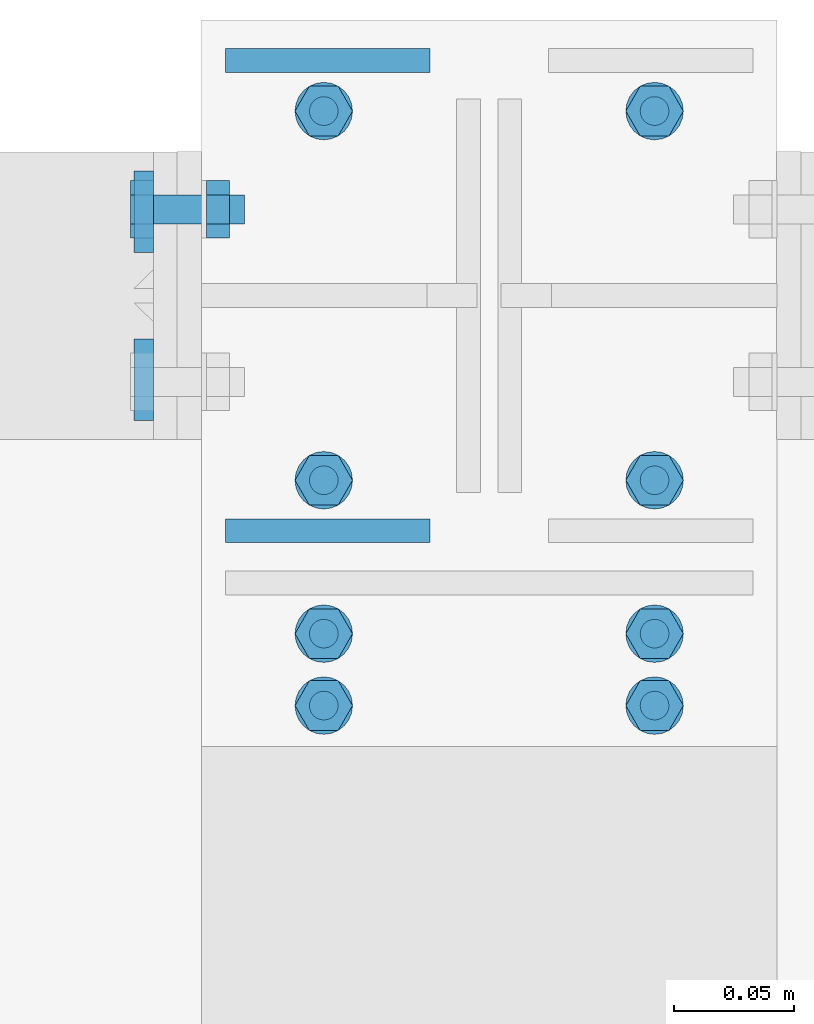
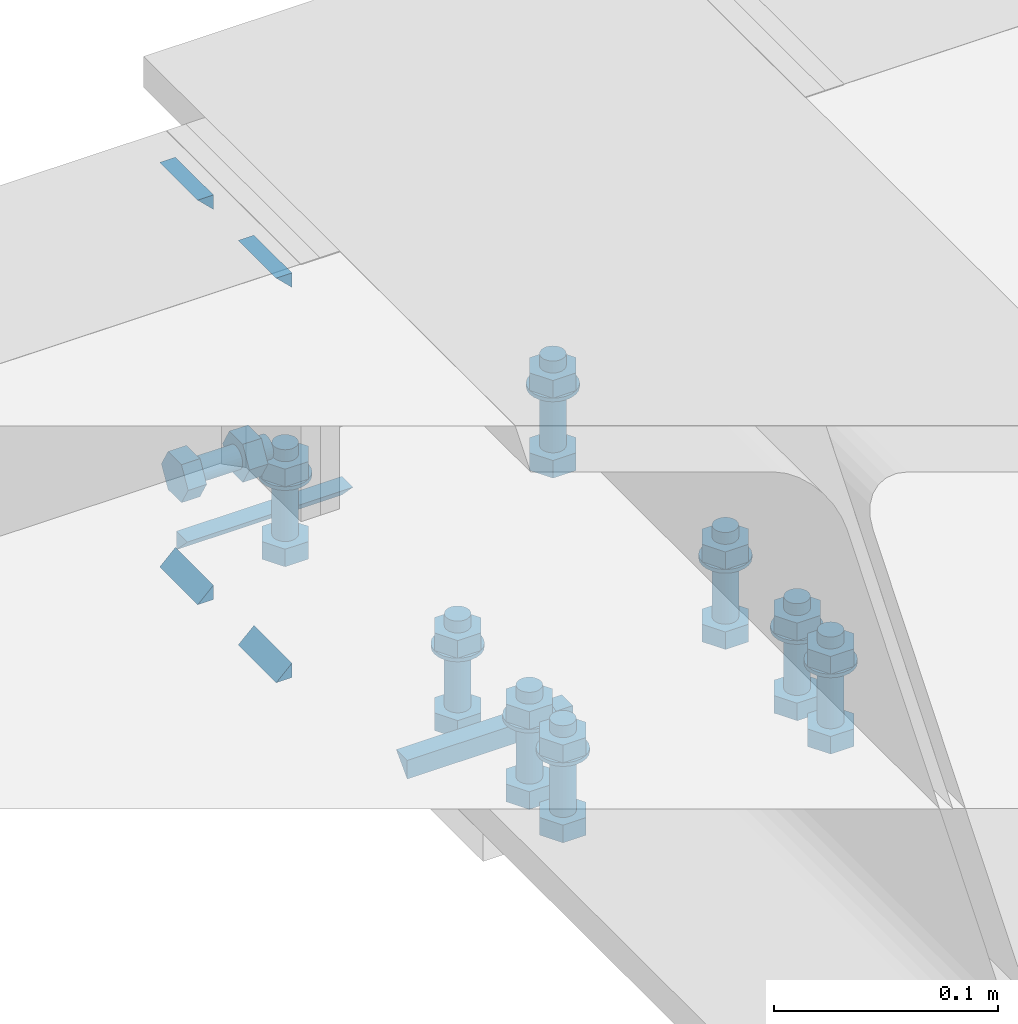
# One storey, part 48 of 66: 35 mechanical fasteners, 10 fasteners.
"""IFC4 building model written with IfcOpenShell, lengths in metres."""

from ifc_helpers import new_model, si_unit, frame, origin_with_axes, place, context, project, spatial, polyline, outline, extrude, type_object, element, save


model = new_model("IFC4")

# Units and contexts
model_context = context("Model", 3, precision=1e-05, world=origin_with_axes())
ifc_project = project(units=[si_unit("LENGTHUNIT", "METRE"), si_unit("AREAUNIT", "SQUARE_METRE"), si_unit("VOLUMEUNIT", "CUBIC_METRE"), si_unit("MASSUNIT", "GRAM", prefix="KILO"), si_unit("TIMEUNIT", "SECOND"), si_unit("PLANEANGLEUNIT", "RADIAN"), si_unit("SOLIDANGLEUNIT", "STERADIAN"), si_unit("THERMODYNAMICTEMPERATUREUNIT", "DEGREE_CELSIUS")], contexts=[model_context])

# Site, building, storey
placement_1 = place(None, origin_with_axes())
site = spatial("IfcSite", under=ifc_project, at=placement_1, Name="Italia", CompositionType="ELEMENT")
building = spatial("IfcBuilding", under=site, at=placement_1, Name="Uffici", CompositionType="ELEMENT")
storey_placement = place(None, frame((0.0, 0.0, 3.299999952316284), z_axis=(0.0, 0.0, 1.0), x_axis=(1.0, 0.0, 0.0)))
storey = spatial("IfcBuildingStorey", under=building, at=storey_placement, Name="Storey 1", CompositionType="ELEMENT", Elevation=3.299999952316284)

# Fasteners
fastener_type_1 = type_object("IfcFastenerType", Name="Collegamenti 0111_0011 0112_0012 0113_0013 0114_0014 0115_0015", PredefinedType="WELD")
placement_2 = place(placement_1, origin_with_axes())
fastener_1_placement = place(placement_2, origin_with_axes())
element("IfcFastener", 1, at=fastener_1_placement, inside=storey, type_object=fastener_type_1, Name="Collegamenti 0111_0011 0112_0012 0113_0013 0114_0014 0115_0015", context=model_context, shape_type="SweptSolid", body=[
    extrude(outline(polyline([(0.0, 0.0), (-0.00986814, -0.0101733), (-0.00986814, 0.0), (0.0, 0.0)])), frame((6.64495, 5.29682, 3.04505), z_axis=(1.0, 0.0, 0.0), x_axis=(0.0, 1.0, 0.0)), (0.0, 0.0, 1.0), 0.08535),
])
fastener_type_2 = type_object("IfcFastenerType", Name="Collegamenti 0111_0011 0112_0012 0113_0013 0114_0014 0115_0015", PredefinedType="WELD")
fastener_2_placement = place(placement_2, origin_with_axes())
element("IfcFastener", 2, at=fastener_2_placement, inside=storey, type_object=fastener_type_2, Name="Collegamenti 0111_0011 0112_0012 0113_0013 0114_0014 0115_0015", context=model_context, shape_type="SweptSolid", body=[
    extrude(outline(polyline([(0.0, 0.0), (-0.00986814, -0.0101733), (-0.00986814, 0.0), (0.0, 0.0)])), frame((6.7303, 5.48318, 3.04505), z_axis=(-1.0, 0.0, 0.0), x_axis=(0.0, -1.0, 0.0)), (0.0, 0.0, 1.0), 0.08535),
])

# Mechanical fasteners
mechanical_fastener_type_1 = type_object("IfcMechanicalFastenerType", Name="Collegamenti 0111_0011 0112_0012 0113_0013 0114_0014 0115_0015", PredefinedType="BOLT")
mechanical_fastener_1_placement = place(placement_2, origin_with_axes())
element("IfcMechanicalFastener", 3, at=mechanical_fastener_1_placement, inside=storey, type_object=mechanical_fastener_type_1, Name="Collegamenti 0111_0011 0112_0012 0113_0013 0114_0014 0115_0015", NominalDiameter=0.0119996, context=model_context, shape_type="SweptSolid", body=[
    extrude(outline(polyline([(0.0, 0.0), (0.0, 0.0119996), (0.0103922, 0.0179996), (0.0207849, 0.0119996), (0.0207849, 0.0), (0.0103922, -0.00600004), (0.0, 0.0)])), frame((6.818, 5.30261, 3.045), z_axis=(0.0, 0.0, -1.0), x_axis=(0.0, 1.0, 0.0)), (0.0, 0.0, 1.0), 0.00959992),
])
mechanical_fastener_type_2 = type_object("IfcMechanicalFastenerType", Name="Collegamenti 0111_0011 0112_0012 0113_0013 0114_0014 0115_0015", PredefinedType="BOLT")
mechanical_fastener_2_placement = place(placement_2, origin_with_axes())
element("IfcMechanicalFastener", 4, at=mechanical_fastener_2_placement, inside=storey, type_object=mechanical_fastener_type_2, Name="Collegamenti 0111_0011 0112_0012 0113_0013 0114_0014 0115_0015", NominalDiameter=0.012, context=model_context, shape_type="SweptSolid", body=[
    extrude(outline(polyline([(0.0, 0.0), (-0.000204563, -0.00155306), (-0.000803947, -0.00299978), (-0.00175762, -0.00424242), (-0.00300026, -0.00519609), (-0.00444698, -0.00579548), (-0.00600004, -0.00600004), (-0.0075531, -0.00579548), (-0.00899982, -0.00519609), (-0.0102425, -0.00424242), (-0.0111961, -0.00299978), (-0.0117955, -0.00155306), (-0.0120001, 0.0), (-0.0117955, 0.00155306), (-0.0111961, 0.00299978), (-0.0102425, 0.00424242), (-0.00899982, 0.00519609), (-0.0075531, 0.00579548), (-0.00600004, 0.00600004), (-0.00444698, 0.00579548), (-0.00300026, 0.00519609), (-0.00175762, 0.00424242), (-0.000803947, 0.00299978), (-0.000204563, 0.00155306), (0.0, 0.0)])), frame((6.824, 5.319, 3.095), z_axis=(0.0, 0.0, -1.0), x_axis=(0.0, 1.0, 0.0)), (0.0, 0.0, 1.0), 0.0500002),
])
mechanical_fastener_type_3 = type_object("IfcMechanicalFastenerType", Name="Collegamenti 0111_0011 0112_0012 0113_0013 0114_0014 0115_0015", PredefinedType="BOLT")
mechanical_fastener_3_placement = place(placement_2, origin_with_axes())
element("IfcMechanicalFastener", 5, at=mechanical_fastener_3_placement, inside=storey, type_object=mechanical_fastener_type_3, Name="Collegamenti 0111_0011 0112_0012 0113_0013 0114_0014 0115_0015", NominalDiameter=0.0119996, context=model_context, shape_type="SweptSolid", body=[
    extrude(outline(polyline([(0.0, 0.0), (0.0, 0.0119996), (0.0103922, 0.0179996), (0.0207849, 0.0119996), (0.0207849, 0.0), (0.0103922, -0.00600004), (0.0, 0.0)])), frame((6.818, 5.30261, 3.0886), z_axis=(0.0, 0.0, -1.0), x_axis=(0.0, 1.0, 0.0)), (0.0, 0.0, 1.0), 0.00959992),
])
mechanical_fastener_type_4 = type_object("IfcMechanicalFastenerType", Name="Collegamenti 0111_0011 0112_0012 0113_0013 0114_0014 0115_0015", PredefinedType="BOLT")
mechanical_fastener_4_placement = place(placement_2, origin_with_axes())
element("IfcMechanicalFastener", 6, at=mechanical_fastener_4_placement, inside=storey, type_object=mechanical_fastener_type_4, Name="Collegamenti 0111_0011 0112_0012 0113_0013 0114_0014 0115_0015", NominalDiameter=0.024, context=model_context, shape_type="SweptSolid", body=[
    extrude(outline(polyline([(0.0, 0.0), (-0.000409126, -0.00310564), (-0.00160789, -0.00600004), (-0.00351477, -0.00848532), (-0.00600004, -0.0103922), (-0.00889444, -0.011591), (-0.0120001, -0.0120001), (-0.0151057, -0.011591), (-0.0180001, -0.0103922), (-0.0204854, -0.00848532), (-0.0223923, -0.00600004), (-0.023591, -0.00310564), (-0.0240002, 0.0), (-0.023591, 0.00310564), (-0.0223923, 0.00600004), (-0.0204854, 0.00848532), (-0.0180001, 0.0103922), (-0.0151057, 0.011591), (-0.0120001, 0.0120001), (-0.00889444, 0.011591), (-0.00600004, 0.0103922), (-0.00351477, 0.00848532), (-0.00160789, 0.00600004), (-0.000409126, 0.00310564), (0.0, 0.0)])), frame((6.824, 5.325, 3.079), z_axis=(0.0, 0.0, -1.0), x_axis=(0.0, 1.0, 0.0)), (0.0, 0.0, 1.0), 0.00200009),
])
mechanical_fastener_type_5 = type_object("IfcMechanicalFastenerType", Name="Collegamenti 0111_0011 0112_0012 0113_0013 0114_0014 0115_0015", PredefinedType="BOLT")
mechanical_fastener_5_placement = place(placement_2, origin_with_axes())
element("IfcMechanicalFastener", 7, at=mechanical_fastener_5_placement, inside=storey, type_object=mechanical_fastener_type_5, Name="Collegamenti 0111_0011 0112_0012 0113_0013 0114_0014 0115_0015", NominalDiameter=0.0119996, context=model_context, shape_type="SweptSolid", body=[
    extrude(outline(polyline([(0.0, 0.0), (0.0, 0.0119996), (0.0103922, 0.0179996), (0.0207849, 0.0119996), (0.0207849, 0.0), (0.0103922, -0.00600004), (0.0, 0.0)])), frame((6.68, 5.30261, 3.045), z_axis=(0.0, 0.0, -1.0), x_axis=(0.0, 1.0, 0.0)), (0.0, 0.0, 1.0), 0.00959992),
])
mechanical_fastener_type_6 = type_object("IfcMechanicalFastenerType", Name="Collegamenti 0111_0011 0112_0012 0113_0013 0114_0014 0115_0015", PredefinedType="BOLT")
mechanical_fastener_6_placement = place(placement_2, origin_with_axes())
element("IfcMechanicalFastener", 8, at=mechanical_fastener_6_placement, inside=storey, type_object=mechanical_fastener_type_6, Name="Collegamenti 0111_0011 0112_0012 0113_0013 0114_0014 0115_0015", NominalDiameter=0.012, context=model_context, shape_type="SweptSolid", body=[
    extrude(outline(polyline([(0.0, 0.0), (-0.000204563, -0.00155306), (-0.000803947, -0.00299978), (-0.00175762, -0.00424242), (-0.00300026, -0.00519609), (-0.00444698, -0.00579548), (-0.00600004, -0.00600004), (-0.0075531, -0.00579548), (-0.00899982, -0.00519609), (-0.0102425, -0.00424242), (-0.0111961, -0.00299978), (-0.0117955, -0.00155306), (-0.0120001, 0.0), (-0.0117955, 0.00155306), (-0.0111961, 0.00299978), (-0.0102425, 0.00424242), (-0.00899982, 0.00519609), (-0.0075531, 0.00579548), (-0.00600004, 0.00600004), (-0.00444698, 0.00579548), (-0.00300026, 0.00519609), (-0.00175762, 0.00424242), (-0.000803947, 0.00299978), (-0.000204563, 0.00155306), (0.0, 0.0)])), frame((6.686, 5.319, 3.095), z_axis=(0.0, 0.0, -1.0), x_axis=(0.0, 1.0, 0.0)), (0.0, 0.0, 1.0), 0.0500002),
])
mechanical_fastener_type_7 = type_object("IfcMechanicalFastenerType", Name="Collegamenti 0111_0011 0112_0012 0113_0013 0114_0014 0115_0015", PredefinedType="BOLT")
mechanical_fastener_7_placement = place(placement_2, origin_with_axes())
element("IfcMechanicalFastener", 9, at=mechanical_fastener_7_placement, inside=storey, type_object=mechanical_fastener_type_7, Name="Collegamenti 0111_0011 0112_0012 0113_0013 0114_0014 0115_0015", NominalDiameter=0.0119996, context=model_context, shape_type="SweptSolid", body=[
    extrude(outline(polyline([(0.0, 0.0), (0.0, 0.0119996), (0.0103922, 0.0179996), (0.0207849, 0.0119996), (0.0207849, 0.0), (0.0103922, -0.00600004), (0.0, 0.0)])), frame((6.68, 5.30261, 3.0886), z_axis=(0.0, 0.0, -1.0), x_axis=(0.0, 1.0, 0.0)), (0.0, 0.0, 1.0), 0.00959992),
])
mechanical_fastener_type_8 = type_object("IfcMechanicalFastenerType", Name="Collegamenti 0111_0011 0112_0012 0113_0013 0114_0014 0115_0015", PredefinedType="BOLT")
mechanical_fastener_8_placement = place(placement_2, origin_with_axes())
element("IfcMechanicalFastener", 10, at=mechanical_fastener_8_placement, inside=storey, type_object=mechanical_fastener_type_8, Name="Collegamenti 0111_0011 0112_0012 0113_0013 0114_0014 0115_0015", NominalDiameter=0.024, context=model_context, shape_type="SweptSolid", body=[
    extrude(outline(polyline([(0.0, 0.0), (-0.000409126, -0.00310564), (-0.00160789, -0.00600004), (-0.00351477, -0.00848532), (-0.00600004, -0.0103922), (-0.00889444, -0.011591), (-0.0120001, -0.0120001), (-0.0151057, -0.011591), (-0.0180001, -0.0103922), (-0.0204854, -0.00848532), (-0.0223923, -0.00600004), (-0.023591, -0.00310564), (-0.0240002, 0.0), (-0.023591, 0.00310564), (-0.0223923, 0.00600004), (-0.0204854, 0.00848532), (-0.0180001, 0.0103922), (-0.0151057, 0.011591), (-0.0120001, 0.0120001), (-0.00889444, 0.011591), (-0.00600004, 0.0103922), (-0.00351477, 0.00848532), (-0.00160789, 0.00600004), (-0.000409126, 0.00310564), (0.0, 0.0)])), frame((6.686, 5.325, 3.079), z_axis=(0.0, 0.0, -1.0), x_axis=(0.0, 1.0, 0.0)), (0.0, 0.0, 1.0), 0.00200009),
])
mechanical_fastener_type_9 = type_object("IfcMechanicalFastenerType", Name="Collegamenti 0111_0011 0112_0012 0113_0013 0114_0014 0115_0015", PredefinedType="BOLT")
mechanical_fastener_9_placement = place(placement_2, origin_with_axes())
element("IfcMechanicalFastener", 11, at=mechanical_fastener_9_placement, inside=storey, type_object=mechanical_fastener_type_9, Name="Collegamenti 0111_0011 0112_0012 0113_0013 0114_0014 0115_0015", NominalDiameter=0.0119996, context=model_context, shape_type="SweptSolid", body=[
    extrude(outline(polyline([(0.0, 0.0), (0.0, 0.0119996), (0.0103927, 0.0179996), (0.0207849, 0.0119996), (0.0207849, 0.0), (0.0103927, -0.00600004), (0.0, 0.0)])), frame((6.818, 5.45661, 3.045), z_axis=(0.0, 0.0, -1.0), x_axis=(0.0, 1.0, 0.0)), (0.0, 0.0, 1.0), 0.00959992),
])
mechanical_fastener_type_10 = type_object("IfcMechanicalFastenerType", Name="Collegamenti 0111_0011 0112_0012 0113_0013 0114_0014 0115_0015", PredefinedType="BOLT")
mechanical_fastener_10_placement = place(placement_2, origin_with_axes())
element("IfcMechanicalFastener", 12, at=mechanical_fastener_10_placement, inside=storey, type_object=mechanical_fastener_type_10, Name="Collegamenti 0111_0011 0112_0012 0113_0013 0114_0014 0115_0015", NominalDiameter=0.012, context=model_context, shape_type="SweptSolid", body=[
    extrude(outline(polyline([(0.0, 0.0), (-0.000204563, -0.00155306), (-0.000803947, -0.00299978), (-0.00175762, -0.00424242), (-0.00300026, -0.00519609), (-0.00444698, -0.00579548), (-0.00600004, -0.00600004), (-0.0075531, -0.00579548), (-0.00899982, -0.00519609), (-0.0102425, -0.00424242), (-0.0111961, -0.00299978), (-0.0117955, -0.00155306), (-0.0120001, 0.0), (-0.0117955, 0.00155306), (-0.0111961, 0.00299978), (-0.0102425, 0.00424242), (-0.00899982, 0.00519609), (-0.0075531, 0.00579548), (-0.00600004, 0.00600004), (-0.00444698, 0.00579548), (-0.00300026, 0.00519609), (-0.00175762, 0.00424242), (-0.000803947, 0.00299978), (-0.000204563, 0.00155306), (0.0, 0.0)])), frame((6.824, 5.473, 3.095), z_axis=(0.0, 0.0, -1.0), x_axis=(0.0, 1.0, 0.0)), (0.0, 0.0, 1.0), 0.0500002),
])
mechanical_fastener_type_11 = type_object("IfcMechanicalFastenerType", Name="Collegamenti 0111_0011 0112_0012 0113_0013 0114_0014 0115_0015", PredefinedType="BOLT")
mechanical_fastener_11_placement = place(placement_2, origin_with_axes())
element("IfcMechanicalFastener", 13, at=mechanical_fastener_11_placement, inside=storey, type_object=mechanical_fastener_type_11, Name="Collegamenti 0111_0011 0112_0012 0113_0013 0114_0014 0115_0015", NominalDiameter=0.0119996, context=model_context, shape_type="SweptSolid", body=[
    extrude(outline(polyline([(0.0, 0.0), (0.0, 0.0119996), (0.0103927, 0.0179996), (0.0207849, 0.0119996), (0.0207849, 0.0), (0.0103927, -0.00600004), (0.0, 0.0)])), frame((6.818, 5.45661, 3.0886), z_axis=(0.0, 0.0, -1.0), x_axis=(0.0, 1.0, 0.0)), (0.0, 0.0, 1.0), 0.00959992),
])
mechanical_fastener_type_12 = type_object("IfcMechanicalFastenerType", Name="Collegamenti 0111_0011 0112_0012 0113_0013 0114_0014 0115_0015", PredefinedType="BOLT")
mechanical_fastener_12_placement = place(placement_2, origin_with_axes())
element("IfcMechanicalFastener", 14, at=mechanical_fastener_12_placement, inside=storey, type_object=mechanical_fastener_type_12, Name="Collegamenti 0111_0011 0112_0012 0113_0013 0114_0014 0115_0015", NominalDiameter=0.024, context=model_context, shape_type="SweptSolid", body=[
    extrude(outline(polyline([(0.0, 0.0), (-0.000409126, -0.00310564), (-0.00160789, -0.00600004), (-0.00351477, -0.00848532), (-0.00600004, -0.0103922), (-0.00889444, -0.011591), (-0.0120001, -0.0120001), (-0.0151057, -0.011591), (-0.0180001, -0.0103922), (-0.0204854, -0.00848532), (-0.0223923, -0.00600004), (-0.023591, -0.00310564), (-0.0240002, 0.0), (-0.023591, 0.00310564), (-0.0223923, 0.00600004), (-0.0204854, 0.00848532), (-0.0180001, 0.0103922), (-0.0151057, 0.011591), (-0.0120001, 0.0120001), (-0.00889444, 0.011591), (-0.00600004, 0.0103922), (-0.00351477, 0.00848532), (-0.00160789, 0.00600004), (-0.000409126, 0.00310564), (0.0, 0.0)])), frame((6.824, 5.479, 3.079), z_axis=(0.0, 0.0, -1.0), x_axis=(0.0, 1.0, 0.0)), (0.0, 0.0, 1.0), 0.00200009),
])
mechanical_fastener_type_13 = type_object("IfcMechanicalFastenerType", Name="Collegamenti 0111_0011 0112_0012 0113_0013 0114_0014 0115_0015", PredefinedType="BOLT")
mechanical_fastener_13_placement = place(placement_2, origin_with_axes())
element("IfcMechanicalFastener", 15, at=mechanical_fastener_13_placement, inside=storey, type_object=mechanical_fastener_type_13, Name="Collegamenti 0111_0011 0112_0012 0113_0013 0114_0014 0115_0015", NominalDiameter=0.0119996, context=model_context, shape_type="SweptSolid", body=[
    extrude(outline(polyline([(0.0, 0.0), (0.0, 0.0119996), (0.0103927, 0.0179996), (0.0207849, 0.0119996), (0.0207849, 0.0), (0.0103927, -0.00600004), (0.0, 0.0)])), frame((6.68, 5.45661, 3.045), z_axis=(0.0, 0.0, -1.0), x_axis=(0.0, 1.0, 0.0)), (0.0, 0.0, 1.0), 0.00959992),
])
mechanical_fastener_type_14 = type_object("IfcMechanicalFastenerType", Name="Collegamenti 0111_0011 0112_0012 0113_0013 0114_0014 0115_0015", PredefinedType="BOLT")
mechanical_fastener_14_placement = place(placement_2, origin_with_axes())
element("IfcMechanicalFastener", 16, at=mechanical_fastener_14_placement, inside=storey, type_object=mechanical_fastener_type_14, Name="Collegamenti 0111_0011 0112_0012 0113_0013 0114_0014 0115_0015", NominalDiameter=0.012, context=model_context, shape_type="SweptSolid", body=[
    extrude(outline(polyline([(0.0, 0.0), (-0.000204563, -0.00155306), (-0.000803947, -0.00299978), (-0.00175762, -0.00424242), (-0.00300026, -0.00519609), (-0.00444698, -0.00579548), (-0.00600004, -0.00600004), (-0.0075531, -0.00579548), (-0.00899982, -0.00519609), (-0.0102425, -0.00424242), (-0.0111961, -0.00299978), (-0.0117955, -0.00155306), (-0.0120001, 0.0), (-0.0117955, 0.00155306), (-0.0111961, 0.00299978), (-0.0102425, 0.00424242), (-0.00899982, 0.00519609), (-0.0075531, 0.00579548), (-0.00600004, 0.00600004), (-0.00444698, 0.00579548), (-0.00300026, 0.00519609), (-0.00175762, 0.00424242), (-0.000803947, 0.00299978), (-0.000204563, 0.00155306), (0.0, 0.0)])), frame((6.686, 5.473, 3.095), z_axis=(0.0, 0.0, -1.0), x_axis=(0.0, 1.0, 0.0)), (0.0, 0.0, 1.0), 0.0500002),
])
mechanical_fastener_type_15 = type_object("IfcMechanicalFastenerType", Name="Collegamenti 0111_0011 0112_0012 0113_0013 0114_0014 0115_0015", PredefinedType="BOLT")
mechanical_fastener_15_placement = place(placement_2, origin_with_axes())
element("IfcMechanicalFastener", 17, at=mechanical_fastener_15_placement, inside=storey, type_object=mechanical_fastener_type_15, Name="Collegamenti 0111_0011 0112_0012 0113_0013 0114_0014 0115_0015", NominalDiameter=0.0119996, context=model_context, shape_type="SweptSolid", body=[
    extrude(outline(polyline([(0.0, 0.0), (0.0, 0.0119996), (0.0103927, 0.0179996), (0.0207849, 0.0119996), (0.0207849, 0.0), (0.0103927, -0.00600004), (0.0, 0.0)])), frame((6.68, 5.45661, 3.0886), z_axis=(0.0, 0.0, -1.0), x_axis=(0.0, 1.0, 0.0)), (0.0, 0.0, 1.0), 0.00959992),
])
mechanical_fastener_type_16 = type_object("IfcMechanicalFastenerType", Name="Collegamenti 0111_0011 0112_0012 0113_0013 0114_0014 0115_0015", PredefinedType="BOLT")
mechanical_fastener_16_placement = place(placement_2, origin_with_axes())
element("IfcMechanicalFastener", 18, at=mechanical_fastener_16_placement, inside=storey, type_object=mechanical_fastener_type_16, Name="Collegamenti 0111_0011 0112_0012 0113_0013 0114_0014 0115_0015", NominalDiameter=0.024, context=model_context, shape_type="SweptSolid", body=[
    extrude(outline(polyline([(0.0, 0.0), (-0.000409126, -0.00310564), (-0.00160789, -0.00600004), (-0.00351477, -0.00848532), (-0.00600004, -0.0103922), (-0.00889444, -0.011591), (-0.0120001, -0.0120001), (-0.0151057, -0.011591), (-0.0180001, -0.0103922), (-0.0204854, -0.00848532), (-0.0223923, -0.00600004), (-0.023591, -0.00310564), (-0.0240002, 0.0), (-0.023591, 0.00310564), (-0.0223923, 0.00600004), (-0.0204854, 0.00848532), (-0.0180001, 0.0103922), (-0.0151057, 0.011591), (-0.0120001, 0.0120001), (-0.00889444, 0.011591), (-0.00600004, 0.0103922), (-0.00351477, 0.00848532), (-0.00160789, 0.00600004), (-0.000409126, 0.00310564), (0.0, 0.0)])), frame((6.686, 5.479, 3.079), z_axis=(0.0, 0.0, -1.0), x_axis=(0.0, 1.0, 0.0)), (0.0, 0.0, 1.0), 0.00200009),
])
mechanical_fastener_type_17 = type_object("IfcMechanicalFastenerType", Name="Collegamenti 0111_0011 0112_0012 0113_0013 0114_0014 0115_0015", PredefinedType="BOLT")
mechanical_fastener_17_placement = place(placement_2, origin_with_axes())
element("IfcMechanicalFastener", 19, at=mechanical_fastener_17_placement, inside=storey, type_object=mechanical_fastener_type_17, Name="Collegamenti 0111_0011 0112_0012 0113_0013 0114_0014 0115_0015", NominalDiameter=0.0119996, context=model_context, shape_type="SweptSolid", body=[
    extrude(outline(polyline([(0.0, 0.0), (0.0, 0.0119996), (0.0103922, 0.0179996), (0.0207844, 0.0119996), (0.0207844, 0.0), (0.0103922, -0.00600004), (0.0, 0.0)])), frame((6.818, 5.20861, 3.045), z_axis=(0.0, 0.0, -1.0), x_axis=(0.0, 1.0, 0.0)), (0.0, 0.0, 1.0), 0.00959992),
])
mechanical_fastener_type_18 = type_object("IfcMechanicalFastenerType", Name="Collegamenti 0111_0011 0112_0012 0113_0013 0114_0014 0115_0015", PredefinedType="BOLT")
mechanical_fastener_18_placement = place(placement_2, origin_with_axes())
element("IfcMechanicalFastener", 20, at=mechanical_fastener_18_placement, inside=storey, type_object=mechanical_fastener_type_18, Name="Collegamenti 0111_0011 0112_0012 0113_0013 0114_0014 0115_0015", NominalDiameter=0.012, context=model_context, shape_type="SweptSolid", body=[
    extrude(outline(polyline([(0.0, 0.0), (-0.000204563, -0.00155306), (-0.000803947, -0.00299978), (-0.00175762, -0.00424242), (-0.00300026, -0.00519609), (-0.00444698, -0.00579548), (-0.00600004, -0.00600004), (-0.0075531, -0.00579548), (-0.00899982, -0.00519609), (-0.0102425, -0.00424242), (-0.0111961, -0.00299978), (-0.0117955, -0.00155306), (-0.0120001, 0.0), (-0.0117955, 0.00155306), (-0.0111961, 0.00299978), (-0.0102425, 0.00424242), (-0.00899982, 0.00519609), (-0.0075531, 0.00579548), (-0.00600004, 0.00600004), (-0.00444698, 0.00579548), (-0.00300026, 0.00519609), (-0.00175762, 0.00424242), (-0.000803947, 0.00299978), (-0.000204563, 0.00155306), (0.0, 0.0)])), frame((6.824, 5.225, 3.095), z_axis=(0.0, 0.0, -1.0), x_axis=(0.0, 1.0, 0.0)), (0.0, 0.0, 1.0), 0.0500002),
])
mechanical_fastener_type_19 = type_object("IfcMechanicalFastenerType", Name="Collegamenti 0111_0011 0112_0012 0113_0013 0114_0014 0115_0015", PredefinedType="BOLT")
mechanical_fastener_19_placement = place(placement_2, origin_with_axes())
element("IfcMechanicalFastener", 21, at=mechanical_fastener_19_placement, inside=storey, type_object=mechanical_fastener_type_19, Name="Collegamenti 0111_0011 0112_0012 0113_0013 0114_0014 0115_0015", NominalDiameter=0.0119996, context=model_context, shape_type="SweptSolid", body=[
    extrude(outline(polyline([(0.0, 0.0), (0.0, 0.0119996), (0.0103922, 0.0179996), (0.0207844, 0.0119996), (0.0207844, 0.0), (0.0103922, -0.00600004), (0.0, 0.0)])), frame((6.818, 5.20861, 3.0886), z_axis=(0.0, 0.0, -1.0), x_axis=(0.0, 1.0, 0.0)), (0.0, 0.0, 1.0), 0.00959992),
])
mechanical_fastener_type_20 = type_object("IfcMechanicalFastenerType", Name="Collegamenti 0111_0011 0112_0012 0113_0013 0114_0014 0115_0015", PredefinedType="BOLT")
mechanical_fastener_20_placement = place(placement_2, origin_with_axes())
element("IfcMechanicalFastener", 22, at=mechanical_fastener_20_placement, inside=storey, type_object=mechanical_fastener_type_20, Name="Collegamenti 0111_0011 0112_0012 0113_0013 0114_0014 0115_0015", NominalDiameter=0.024, context=model_context, shape_type="SweptSolid", body=[
    extrude(outline(polyline([(0.0, 0.0), (-0.000409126, -0.00310564), (-0.00160789, -0.00600004), (-0.00351477, -0.00848532), (-0.00600004, -0.0103922), (-0.00889444, -0.011591), (-0.0120001, -0.0120001), (-0.0151057, -0.011591), (-0.0180001, -0.0103922), (-0.0204854, -0.00848532), (-0.0223923, -0.00600004), (-0.023591, -0.00310564), (-0.0240002, 0.0), (-0.023591, 0.00310564), (-0.0223923, 0.00600004), (-0.0204854, 0.00848532), (-0.0180001, 0.0103922), (-0.0151057, 0.011591), (-0.0120001, 0.0120001), (-0.00889444, 0.011591), (-0.00600004, 0.0103922), (-0.00351477, 0.00848532), (-0.00160789, 0.00600004), (-0.000409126, 0.00310564), (0.0, 0.0)])), frame((6.824, 5.231, 3.079), z_axis=(0.0, 0.0, -1.0), x_axis=(0.0, 1.0, 0.0)), (0.0, 0.0, 1.0), 0.00200009),
])
mechanical_fastener_type_21 = type_object("IfcMechanicalFastenerType", Name="Collegamenti 0111_0011 0112_0012 0113_0013 0114_0014 0115_0015", PredefinedType="BOLT")
mechanical_fastener_21_placement = place(placement_2, origin_with_axes())
element("IfcMechanicalFastener", 23, at=mechanical_fastener_21_placement, inside=storey, type_object=mechanical_fastener_type_21, Name="Collegamenti 0111_0011 0112_0012 0113_0013 0114_0014 0115_0015", NominalDiameter=0.0119996, context=model_context, shape_type="SweptSolid", body=[
    extrude(outline(polyline([(0.0, 0.0), (0.0, 0.0119996), (0.0103922, 0.0179996), (0.0207844, 0.0119996), (0.0207844, 0.0), (0.0103922, -0.00600004), (0.0, 0.0)])), frame((6.68, 5.20861, 3.045), z_axis=(0.0, 0.0, -1.0), x_axis=(0.0, 1.0, 0.0)), (0.0, 0.0, 1.0), 0.00959992),
])
mechanical_fastener_type_22 = type_object("IfcMechanicalFastenerType", Name="Collegamenti 0111_0011 0112_0012 0113_0013 0114_0014 0115_0015", PredefinedType="BOLT")
mechanical_fastener_22_placement = place(placement_2, origin_with_axes())
element("IfcMechanicalFastener", 24, at=mechanical_fastener_22_placement, inside=storey, type_object=mechanical_fastener_type_22, Name="Collegamenti 0111_0011 0112_0012 0113_0013 0114_0014 0115_0015", NominalDiameter=0.012, context=model_context, shape_type="SweptSolid", body=[
    extrude(outline(polyline([(0.0, 0.0), (-0.000204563, -0.00155306), (-0.000803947, -0.00299978), (-0.00175762, -0.00424242), (-0.00300026, -0.00519609), (-0.00444698, -0.00579548), (-0.00600004, -0.00600004), (-0.0075531, -0.00579548), (-0.00899982, -0.00519609), (-0.0102425, -0.00424242), (-0.0111961, -0.00299978), (-0.0117955, -0.00155306), (-0.0120001, 0.0), (-0.0117955, 0.00155306), (-0.0111961, 0.00299978), (-0.0102425, 0.00424242), (-0.00899982, 0.00519609), (-0.0075531, 0.00579548), (-0.00600004, 0.00600004), (-0.00444698, 0.00579548), (-0.00300026, 0.00519609), (-0.00175762, 0.00424242), (-0.000803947, 0.00299978), (-0.000204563, 0.00155306), (0.0, 0.0)])), frame((6.686, 5.225, 3.095), z_axis=(0.0, 0.0, -1.0), x_axis=(0.0, 1.0, 0.0)), (0.0, 0.0, 1.0), 0.0500002),
])
mechanical_fastener_type_23 = type_object("IfcMechanicalFastenerType", Name="Collegamenti 0111_0011 0112_0012 0113_0013 0114_0014 0115_0015", PredefinedType="BOLT")
mechanical_fastener_23_placement = place(placement_2, origin_with_axes())
element("IfcMechanicalFastener", 25, at=mechanical_fastener_23_placement, inside=storey, type_object=mechanical_fastener_type_23, Name="Collegamenti 0111_0011 0112_0012 0113_0013 0114_0014 0115_0015", NominalDiameter=0.0119996, context=model_context, shape_type="SweptSolid", body=[
    extrude(outline(polyline([(0.0, 0.0), (0.0, 0.0119996), (0.0103922, 0.0179996), (0.0207844, 0.0119996), (0.0207844, 0.0), (0.0103922, -0.00600004), (0.0, 0.0)])), frame((6.68, 5.20861, 3.0886), z_axis=(0.0, 0.0, -1.0), x_axis=(0.0, 1.0, 0.0)), (0.0, 0.0, 1.0), 0.00959992),
])
mechanical_fastener_type_24 = type_object("IfcMechanicalFastenerType", Name="Collegamenti 0111_0011 0112_0012 0113_0013 0114_0014 0115_0015", PredefinedType="BOLT")
mechanical_fastener_24_placement = place(placement_2, origin_with_axes())
element("IfcMechanicalFastener", 26, at=mechanical_fastener_24_placement, inside=storey, type_object=mechanical_fastener_type_24, Name="Collegamenti 0111_0011 0112_0012 0113_0013 0114_0014 0115_0015", NominalDiameter=0.024, context=model_context, shape_type="SweptSolid", body=[
    extrude(outline(polyline([(0.0, 0.0), (-0.000409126, -0.00310564), (-0.00160789, -0.00600004), (-0.00351477, -0.00848532), (-0.00600004, -0.0103922), (-0.00889444, -0.011591), (-0.0120001, -0.0120001), (-0.0151057, -0.011591), (-0.0180001, -0.0103922), (-0.0204854, -0.00848532), (-0.0223923, -0.00600004), (-0.023591, -0.00310564), (-0.0240002, 0.0), (-0.023591, 0.00310564), (-0.0223923, 0.00600004), (-0.0204854, 0.00848532), (-0.0180001, 0.0103922), (-0.0151057, 0.011591), (-0.0120001, 0.0120001), (-0.00889444, 0.011591), (-0.00600004, 0.0103922), (-0.00351477, 0.00848532), (-0.00160789, 0.00600004), (-0.000409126, 0.00310564), (0.0, 0.0)])), frame((6.686, 5.231, 3.079), z_axis=(0.0, 0.0, -1.0), x_axis=(0.0, 1.0, 0.0)), (0.0, 0.0, 1.0), 0.00200009),
])
mechanical_fastener_type_25 = type_object("IfcMechanicalFastenerType", Name="Collegamenti 0111_0011 0112_0012 0113_0013 0114_0014 0115_0015", PredefinedType="BOLT")
mechanical_fastener_25_placement = place(placement_2, origin_with_axes())
element("IfcMechanicalFastener", 27, at=mechanical_fastener_25_placement, inside=storey, type_object=mechanical_fastener_type_25, Name="Collegamenti 0111_0011 0112_0012 0113_0013 0114_0014 0115_0015", NominalDiameter=0.0119996, context=model_context, shape_type="SweptSolid", body=[
    extrude(outline(polyline([(0.0, 0.0), (0.0, 0.0119996), (0.0103927, 0.0179996), (0.0207849, 0.0119996), (0.0207849, 0.0), (0.0103927, -0.00600004), (0.0, 0.0)])), frame((6.818, 5.23861, 3.045), z_axis=(0.0, 0.0, -1.0), x_axis=(0.0, 1.0, 0.0)), (0.0, 0.0, 1.0), 0.00959992),
])
mechanical_fastener_type_26 = type_object("IfcMechanicalFastenerType", Name="Collegamenti 0111_0011 0112_0012 0113_0013 0114_0014 0115_0015", PredefinedType="BOLT")
mechanical_fastener_26_placement = place(placement_2, origin_with_axes())
element("IfcMechanicalFastener", 28, at=mechanical_fastener_26_placement, inside=storey, type_object=mechanical_fastener_type_26, Name="Collegamenti 0111_0011 0112_0012 0113_0013 0114_0014 0115_0015", NominalDiameter=0.012, context=model_context, shape_type="SweptSolid", body=[
    extrude(outline(polyline([(0.0, 0.0), (-0.000204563, -0.00155306), (-0.000803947, -0.00299978), (-0.00175762, -0.00424242), (-0.00300026, -0.00519609), (-0.00444698, -0.00579548), (-0.00600004, -0.00600004), (-0.0075531, -0.00579548), (-0.00899982, -0.00519609), (-0.0102425, -0.00424242), (-0.0111961, -0.00299978), (-0.0117955, -0.00155306), (-0.0120001, 0.0), (-0.0117955, 0.00155306), (-0.0111961, 0.00299978), (-0.0102425, 0.00424242), (-0.00899982, 0.00519609), (-0.0075531, 0.00579548), (-0.00600004, 0.00600004), (-0.00444698, 0.00579548), (-0.00300026, 0.00519609), (-0.00175762, 0.00424242), (-0.000803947, 0.00299978), (-0.000204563, 0.00155306), (0.0, 0.0)])), frame((6.824, 5.255, 3.095), z_axis=(0.0, 0.0, -1.0), x_axis=(0.0, 1.0, 0.0)), (0.0, 0.0, 1.0), 0.0500002),
])
mechanical_fastener_type_27 = type_object("IfcMechanicalFastenerType", Name="Collegamenti 0111_0011 0112_0012 0113_0013 0114_0014 0115_0015", PredefinedType="BOLT")
mechanical_fastener_27_placement = place(placement_2, origin_with_axes())
element("IfcMechanicalFastener", 29, at=mechanical_fastener_27_placement, inside=storey, type_object=mechanical_fastener_type_27, Name="Collegamenti 0111_0011 0112_0012 0113_0013 0114_0014 0115_0015", NominalDiameter=0.0119996, context=model_context, shape_type="SweptSolid", body=[
    extrude(outline(polyline([(0.0, 0.0), (0.0, 0.0119996), (0.0103927, 0.0179996), (0.0207849, 0.0119996), (0.0207849, 0.0), (0.0103927, -0.00600004), (0.0, 0.0)])), frame((6.818, 5.23861, 3.0886), z_axis=(0.0, 0.0, -1.0), x_axis=(0.0, 1.0, 0.0)), (0.0, 0.0, 1.0), 0.00959992),
])
mechanical_fastener_type_28 = type_object("IfcMechanicalFastenerType", Name="Collegamenti 0111_0011 0112_0012 0113_0013 0114_0014 0115_0015", PredefinedType="BOLT")
mechanical_fastener_28_placement = place(placement_2, origin_with_axes())
element("IfcMechanicalFastener", 30, at=mechanical_fastener_28_placement, inside=storey, type_object=mechanical_fastener_type_28, Name="Collegamenti 0111_0011 0112_0012 0113_0013 0114_0014 0115_0015", NominalDiameter=0.024, context=model_context, shape_type="SweptSolid", body=[
    extrude(outline(polyline([(0.0, 0.0), (-0.000409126, -0.00310564), (-0.00160789, -0.00600004), (-0.00351477, -0.00848532), (-0.00600004, -0.0103922), (-0.00889444, -0.011591), (-0.0120001, -0.0120001), (-0.0151057, -0.011591), (-0.0180001, -0.0103922), (-0.0204854, -0.00848532), (-0.0223923, -0.00600004), (-0.023591, -0.00310564), (-0.0240002, 0.0), (-0.023591, 0.00310564), (-0.0223923, 0.00600004), (-0.0204854, 0.00848532), (-0.0180001, 0.0103922), (-0.0151057, 0.011591), (-0.0120001, 0.0120001), (-0.00889444, 0.011591), (-0.00600004, 0.0103922), (-0.00351477, 0.00848532), (-0.00160789, 0.00600004), (-0.000409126, 0.00310564), (0.0, 0.0)])), frame((6.824, 5.261, 3.079), z_axis=(0.0, 0.0, -1.0), x_axis=(0.0, 1.0, 0.0)), (0.0, 0.0, 1.0), 0.00200009),
])
mechanical_fastener_type_29 = type_object("IfcMechanicalFastenerType", Name="Collegamenti 0111_0011 0112_0012 0113_0013 0114_0014 0115_0015", PredefinedType="BOLT")
mechanical_fastener_29_placement = place(placement_2, origin_with_axes())
element("IfcMechanicalFastener", 31, at=mechanical_fastener_29_placement, inside=storey, type_object=mechanical_fastener_type_29, Name="Collegamenti 0111_0011 0112_0012 0113_0013 0114_0014 0115_0015", NominalDiameter=0.0119996, context=model_context, shape_type="SweptSolid", body=[
    extrude(outline(polyline([(0.0, 0.0), (0.0, 0.0119996), (0.0103927, 0.0179996), (0.0207849, 0.0119996), (0.0207849, 0.0), (0.0103927, -0.00600004), (0.0, 0.0)])), frame((6.68, 5.23861, 3.045), z_axis=(0.0, 0.0, -1.0), x_axis=(0.0, 1.0, 0.0)), (0.0, 0.0, 1.0), 0.00959992),
])
mechanical_fastener_type_30 = type_object("IfcMechanicalFastenerType", Name="Collegamenti 0111_0011 0112_0012 0113_0013 0114_0014 0115_0015", PredefinedType="BOLT")
mechanical_fastener_30_placement = place(placement_2, origin_with_axes())
element("IfcMechanicalFastener", 32, at=mechanical_fastener_30_placement, inside=storey, type_object=mechanical_fastener_type_30, Name="Collegamenti 0111_0011 0112_0012 0113_0013 0114_0014 0115_0015", NominalDiameter=0.012, context=model_context, shape_type="SweptSolid", body=[
    extrude(outline(polyline([(0.0, 0.0), (-0.000204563, -0.00155306), (-0.000803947, -0.00299978), (-0.00175762, -0.00424242), (-0.00300026, -0.00519609), (-0.00444698, -0.00579548), (-0.00600004, -0.00600004), (-0.0075531, -0.00579548), (-0.00899982, -0.00519609), (-0.0102425, -0.00424242), (-0.0111961, -0.00299978), (-0.0117955, -0.00155306), (-0.0120001, 0.0), (-0.0117955, 0.00155306), (-0.0111961, 0.00299978), (-0.0102425, 0.00424242), (-0.00899982, 0.00519609), (-0.0075531, 0.00579548), (-0.00600004, 0.00600004), (-0.00444698, 0.00579548), (-0.00300026, 0.00519609), (-0.00175762, 0.00424242), (-0.000803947, 0.00299978), (-0.000204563, 0.00155306), (0.0, 0.0)])), frame((6.686, 5.255, 3.095), z_axis=(0.0, 0.0, -1.0), x_axis=(0.0, 1.0, 0.0)), (0.0, 0.0, 1.0), 0.0500002),
])
mechanical_fastener_type_31 = type_object("IfcMechanicalFastenerType", Name="Collegamenti 0111_0011 0112_0012 0113_0013 0114_0014 0115_0015", PredefinedType="BOLT")
mechanical_fastener_31_placement = place(placement_2, origin_with_axes())
element("IfcMechanicalFastener", 33, at=mechanical_fastener_31_placement, inside=storey, type_object=mechanical_fastener_type_31, Name="Collegamenti 0111_0011 0112_0012 0113_0013 0114_0014 0115_0015", NominalDiameter=0.0119996, context=model_context, shape_type="SweptSolid", body=[
    extrude(outline(polyline([(0.0, 0.0), (0.0, 0.0119996), (0.0103927, 0.0179996), (0.0207849, 0.0119996), (0.0207849, 0.0), (0.0103927, -0.00600004), (0.0, 0.0)])), frame((6.68, 5.23861, 3.0886), z_axis=(0.0, 0.0, -1.0), x_axis=(0.0, 1.0, 0.0)), (0.0, 0.0, 1.0), 0.00959992),
])
mechanical_fastener_type_32 = type_object("IfcMechanicalFastenerType", Name="Collegamenti 0111_0011 0112_0012 0113_0013 0114_0014 0115_0015", PredefinedType="BOLT")
mechanical_fastener_32_placement = place(placement_2, origin_with_axes())
element("IfcMechanicalFastener", 34, at=mechanical_fastener_32_placement, inside=storey, type_object=mechanical_fastener_type_32, Name="Collegamenti 0111_0011 0112_0012 0113_0013 0114_0014 0115_0015", NominalDiameter=0.024, context=model_context, shape_type="SweptSolid", body=[
    extrude(outline(polyline([(0.0, 0.0), (-0.000409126, -0.00310564), (-0.00160789, -0.00600004), (-0.00351477, -0.00848532), (-0.00600004, -0.0103922), (-0.00889444, -0.011591), (-0.0120001, -0.0120001), (-0.0151057, -0.011591), (-0.0180001, -0.0103922), (-0.0204854, -0.00848532), (-0.0223923, -0.00600004), (-0.023591, -0.00310564), (-0.0240002, 0.0), (-0.023591, 0.00310564), (-0.0223923, 0.00600004), (-0.0204854, 0.00848532), (-0.0180001, 0.0103922), (-0.0151057, 0.011591), (-0.0120001, 0.0120001), (-0.00889444, 0.011591), (-0.00600004, 0.0103922), (-0.00351477, 0.00848532), (-0.00160789, 0.00600004), (-0.000409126, 0.00310564), (0.0, 0.0)])), frame((6.686, 5.261, 3.079), z_axis=(0.0, 0.0, -1.0), x_axis=(0.0, 1.0, 0.0)), (0.0, 0.0, 1.0), 0.00200009),
])

# Fasteners
fastener_type_3 = type_object("IfcFastenerType", Name="Collegamento 0113_0112", PredefinedType="WELD")
fastener_3_placement = place(placement_2, origin_with_axes())
element("IfcFastener", 35, at=fastener_3_placement, inside=storey, type_object=fastener_type_3, Name="Collegamento 0113_0112", context=model_context, shape_type="SweptSolid", body=[
    extrude(outline(polyline([(0.0, 0.0), (-0.00817347, 0.00792813), (0.0, 0.00792813), (0.0, 0.0)])), frame((6.61505, 5.37195, 3.28232), z_axis=(0.0, -1.0, 0.0), x_axis=(1.0, 0.0, 0.0)), (0.0, 0.0, 1.0), 0.0340004),
])
fastener_type_4 = type_object("IfcFastenerType", Name="Collegamento 0113_0112", PredefinedType="WELD")
fastener_4_placement = place(placement_2, origin_with_axes())
element("IfcFastener", 36, at=fastener_4_placement, inside=storey, type_object=fastener_type_4, Name="Collegamento 0113_0112", context=model_context, shape_type="SweptSolid", body=[
    extrude(outline(polyline([(0.0, 0.0), (0.00817347, -0.00792813), (0.0, -0.00792813), (0.0, 0.0)])), frame((6.61505, 5.33795, 3.07768), z_axis=(0.0, 1.0, 0.0), x_axis=(-1.0, 0.0, 0.0)), (0.0, 0.0, 1.0), 0.0340004),
])
fastener_type_5 = type_object("IfcFastenerType", Name="Collegamento 0113_0112", PredefinedType="WELD")
fastener_5_placement = place(placement_2, origin_with_axes())
element("IfcFastener", 37, at=fastener_5_placement, inside=storey, type_object=fastener_type_5, Name="Collegamento 0113_0112", context=model_context, shape_type="SweptSolid", body=[
    extrude(outline(polyline([(0.0, 0.0), (0.00817347, -0.00792813), (0.0, -0.00792813), (0.0, 0.0)])), frame((6.61505, 5.40805, 3.07768), z_axis=(0.0, 1.0, 0.0), x_axis=(-1.0, 0.0, 0.0)), (0.0, 0.0, 1.0), 0.0340004),
])
fastener_type_6 = type_object("IfcFastenerType", Name="Collegamento 0113_0112", PredefinedType="WELD")
fastener_6_placement = place(placement_2, origin_with_axes())
element("IfcFastener", 38, at=fastener_6_placement, inside=storey, type_object=fastener_type_6, Name="Collegamento 0113_0112", context=model_context, shape_type="SweptSolid", body=[
    extrude(outline(polyline([(0.0, 0.0), (-0.00817347, 0.00792813), (0.0, 0.00792813), (0.0, 0.0)])), frame((6.61505, 5.44205, 3.28232), z_axis=(0.0, -1.0, 0.0), x_axis=(1.0, 0.0, 0.0)), (0.0, 0.0, 1.0), 0.0340004),
])
fastener_type_7 = type_object("IfcFastenerType", Name="Collegamento 0113_0112", PredefinedType="WELD")
fastener_7_placement = place(placement_2, origin_with_axes())
element("IfcFastener", 39, at=fastener_7_placement, inside=storey, type_object=fastener_type_7, Name="Collegamento 0113_0112", context=model_context, shape_type="SweptSolid", body=[
    extrude(outline(polyline([(0.0, 0.0), (-0.00817347, 0.00792813), (0.0, 0.00792813), (0.0, 0.0)])), frame((6.61505, 5.37195, 3.28232), z_axis=(0.0, -1.0, 0.0), x_axis=(1.0, 0.0, 0.0)), (0.0, 0.0, 1.0), 0.0340004),
])
fastener_type_8 = type_object("IfcFastenerType", Name="Collegamento 0113_0112", PredefinedType="WELD")
fastener_8_placement = place(placement_2, origin_with_axes())
element("IfcFastener", 40, at=fastener_8_placement, inside=storey, type_object=fastener_type_8, Name="Collegamento 0113_0112", context=model_context, shape_type="SweptSolid", body=[
    extrude(outline(polyline([(0.0, 0.0), (0.00817347, -0.00792813), (0.0, -0.00792813), (0.0, 0.0)])), frame((6.61505, 5.33795, 3.07768), z_axis=(0.0, 1.0, 0.0), x_axis=(-1.0, 0.0, 0.0)), (0.0, 0.0, 1.0), 0.0340004),
])
fastener_type_9 = type_object("IfcFastenerType", Name="Collegamento 0113_0112", PredefinedType="WELD")
fastener_9_placement = place(placement_2, origin_with_axes())
element("IfcFastener", 41, at=fastener_9_placement, inside=storey, type_object=fastener_type_9, Name="Collegamento 0113_0112", context=model_context, shape_type="SweptSolid", body=[
    extrude(outline(polyline([(0.0, 0.0), (0.00817347, -0.00792813), (0.0, -0.00792813), (0.0, 0.0)])), frame((6.61505, 5.40805, 3.07768), z_axis=(0.0, 1.0, 0.0), x_axis=(-1.0, 0.0, 0.0)), (0.0, 0.0, 1.0), 0.0340004),
])
fastener_type_10 = type_object("IfcFastenerType", Name="Collegamento 0113_0112", PredefinedType="WELD")
fastener_10_placement = place(placement_2, origin_with_axes())
element("IfcFastener", 42, at=fastener_10_placement, inside=storey, type_object=fastener_type_10, Name="Collegamento 0113_0112", context=model_context, shape_type="SweptSolid", body=[
    extrude(outline(polyline([(0.0, 0.0), (-0.00817347, 0.00792813), (0.0, 0.00792813), (0.0, 0.0)])), frame((6.61505, 5.44205, 3.28232), z_axis=(0.0, -1.0, 0.0), x_axis=(1.0, 0.0, 0.0)), (0.0, 0.0, 1.0), 0.0340004),
])

# Mechanical fasteners
mechanical_fastener_type_33 = type_object("IfcMechanicalFastenerType", Name="Collegamento 0113_0112", PredefinedType="BOLT")
mechanical_fastener_33_placement = place(placement_2, origin_with_axes())
element("IfcMechanicalFastener", 43, at=mechanical_fastener_33_placement, inside=storey, type_object=mechanical_fastener_type_33, Name="Collegamento 0113_0112", NominalDiameter=0.0119996, context=model_context, shape_type="SweptSolid", body=[
    extrude(outline(polyline([(0.0, 0.0), (-0.0119996, 0.0), (-0.0179996, 0.0103922), (-0.0119996, 0.0207846), (0.0, 0.0207846), (0.00600004, 0.0103922), (0.0, 0.0)])), frame((6.615, 5.42, 3.11861), z_axis=(-1.0, 0.0, 0.0), x_axis=(0.0, -1.0, 0.0)), (0.0, 0.0, 1.0), 0.00960016),
])
mechanical_fastener_type_34 = type_object("IfcMechanicalFastenerType", Name="Collegamento 0113_0112", PredefinedType="BOLT")
mechanical_fastener_34_placement = place(placement_2, origin_with_axes())
element("IfcMechanicalFastener", 44, at=mechanical_fastener_34_placement, inside=storey, type_object=mechanical_fastener_type_34, Name="Collegamento 0113_0112", NominalDiameter=0.012, context=model_context, shape_type="SweptSolid", body=[
    extrude(outline(polyline([(0.0, 0.0), (-0.000204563, -0.00155282), (-0.000803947, -0.00300002), (-0.00175762, -0.00424266), (-0.00300026, -0.00519609), (-0.00444698, -0.00579548), (-0.00600004, -0.00600004), (-0.0075531, -0.00579548), (-0.00899982, -0.00519609), (-0.0102425, -0.00424266), (-0.0111961, -0.00300002), (-0.0117955, -0.00155282), (-0.0120001, 0.0), (-0.0117955, 0.00155282), (-0.0111961, 0.00300002), (-0.0102425, 0.00424266), (-0.00899982, 0.00519609), (-0.0075531, 0.00579548), (-0.00600004, 0.00600004), (-0.00444698, 0.00579548), (-0.00300026, 0.00519609), (-0.00175762, 0.00424266), (-0.000803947, 0.00300002), (-0.000204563, 0.00155282), (0.0, 0.0)])), frame((6.653, 5.42, 3.129), z_axis=(-1.0, 0.0, 0.0), x_axis=(0.0, -1.0, 0.0)), (0.0, 0.0, 1.0), 0.0380001),
])
mechanical_fastener_type_35 = type_object("IfcMechanicalFastenerType", Name="Collegamento 0113_0112", PredefinedType="BOLT")
mechanical_fastener_35_placement = place(placement_2, origin_with_axes())
element("IfcMechanicalFastener", 45, at=mechanical_fastener_35_placement, inside=storey, type_object=mechanical_fastener_type_35, Name="Collegamento 0113_0112", NominalDiameter=0.0119996, context=model_context, shape_type="SweptSolid", body=[
    extrude(outline(polyline([(0.0, 0.0), (-0.0119996, 0.0), (-0.0179996, 0.0103922), (-0.0119996, 0.0207846), (0.0, 0.0207846), (0.00600004, 0.0103922), (0.0, 0.0)])), frame((6.6466, 5.42, 3.11861), z_axis=(-1.0, 0.0, 0.0), x_axis=(0.0, -1.0, 0.0)), (0.0, 0.0, 1.0), 0.00960016),
])

save(model, "model.ifc")
